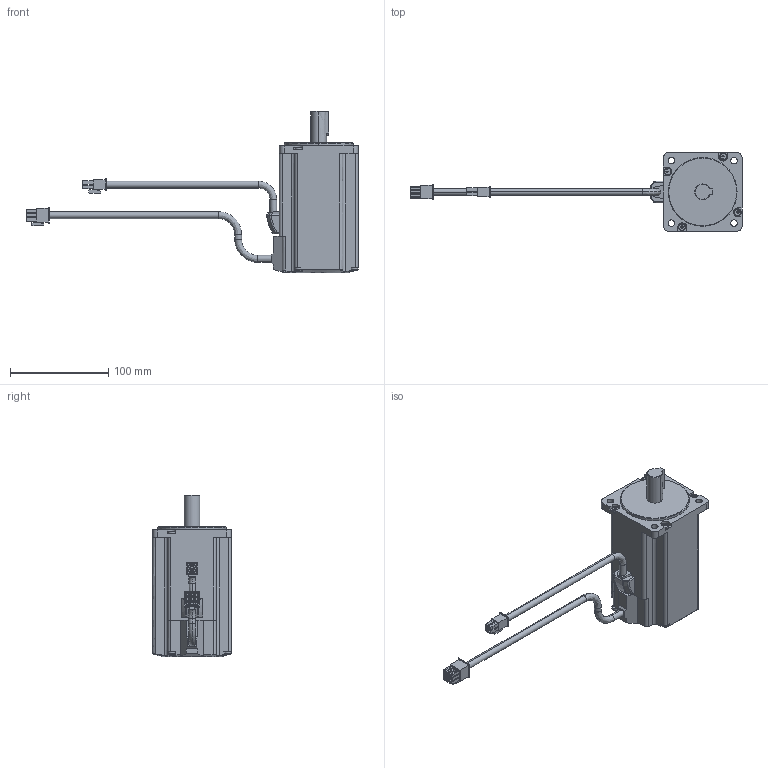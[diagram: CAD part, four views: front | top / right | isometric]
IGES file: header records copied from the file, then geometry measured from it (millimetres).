
Start section:  PTC IGES file: RSMZ-06BA3xS.igs
Global section: file name: RSMZ-06BA3xS.igs; native system: Pro/ENGINEER by Parametric Technology Corporation; preprocessor: 2004440; author: Administrator; organization: Unknown; date: 070904.190453; units: millimetre
Bounding box: 337.7 x 80 x 164 mm (x, y, z)
Volume: 749041.5 mm3; surface area: 71325.7 mm2
Topology: 1 solids, 1 shells, 462 faces, 1172 edges, 760 vertices
Faces by surface type: bspline 332, revolution 130
